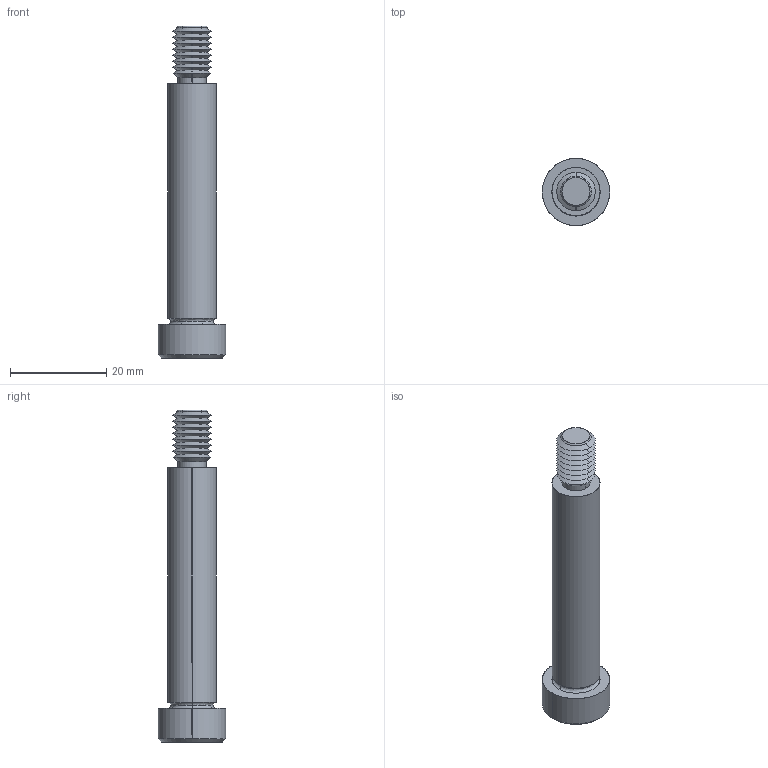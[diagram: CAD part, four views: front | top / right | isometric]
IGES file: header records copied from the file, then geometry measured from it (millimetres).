
Start section: SolidWorks IGES file using analytic representation for surfaces
Global section: file name: C:\Users\IanO\Documents\Temp Folder\GENERAL\SCREW REVISION\P0130_v2\P0130.T5_v2_20220106_IGES\P0130.100-050-T5.igs; native system: SolidWorks 2019; preprocessor: SolidWorks 2019; author: IanO; date: 220106.224346; units: millimetre
Bounding box: 14 x 14 x 69 mm (x, y, z)
Surface area: 2747.4 mm2 (no closed solid volume)
Topology: 0 solids, 0 shells, 72 faces, 548 edges, 546 vertices
Faces by surface type: revolution 52, bspline 20
